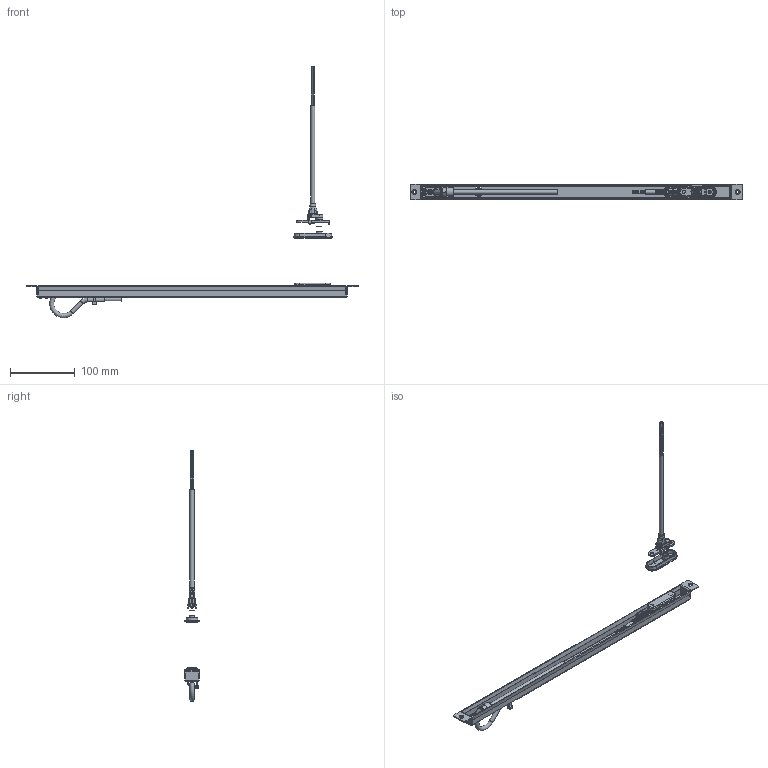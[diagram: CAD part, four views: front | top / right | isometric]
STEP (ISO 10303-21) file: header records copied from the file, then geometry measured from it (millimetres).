
FILE_DESCRIPTION(/* description */ (''),/* implementation_level */ '2;1');
FILE_NAME(/* name */ '1309173- Kabelbergang M 12 91 (6m-3m).stp',/* time_stamp */ '2025-12-15T08:58:26+01:00',/* author */ ('DSchwan'),/* organization */ (''),/* preprocessor_version */ 'ST-DEVELOPER v20',/* originating_system */ 'Autodesk Inventor 2025',/* authorisation */ '');
FILE_SCHEMA (('AUTOMOTIVE_DESIGN { 1 0 10303 214 3 1 1 }'));
Products named in the file (1): 1309173- Kabelübergang M 12 91 (6m-3m)
Bounding box: 511 x 24.03 x 386.97 mm (x, y, z)
Volume: 75950.8 mm3; surface area: 92302.7 mm2
Topology: 5 solids, 63 shells, 3161 faces, 8265 edges, 5439 vertices
Faces by surface type: plane 1489, bspline 782, cylinder 568, torus 159, cone 150, sphere 13
Full cylindrical faces by diameter (mm): 0.05 x1, 0.4 x5, 0.5 x8, 0.55 x8, 0.6 x16, 0.7 x16, 0.75 x8, 0.85 x8, 1.2 x32, 1.25 x24, 1.3 x1, 1.4 x33, 1.5 x3, 1.6 x1, 2.459 x1, 3 x4, 3.621 x2, 3.726 x1, 4 x4, 4.5 x2, 4.7 x2, 5.2 x1, 5.7 x2, 5.8 x1, 6 x7, 6.45 x1, 6.47 x1, 6.5 x7, 7 x1, 7.1 x2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
Entity records: 117923 total; most frequent: CARTESIAN_POINT 41809, ORIENTED_EDGE 16472, DIRECTION 12550, EDGE_CURVE 8236, VERTEX_POINT 5429, LINE 4350, VECTOR 4350, AXIS2_PLACEMENT_3D 4100
